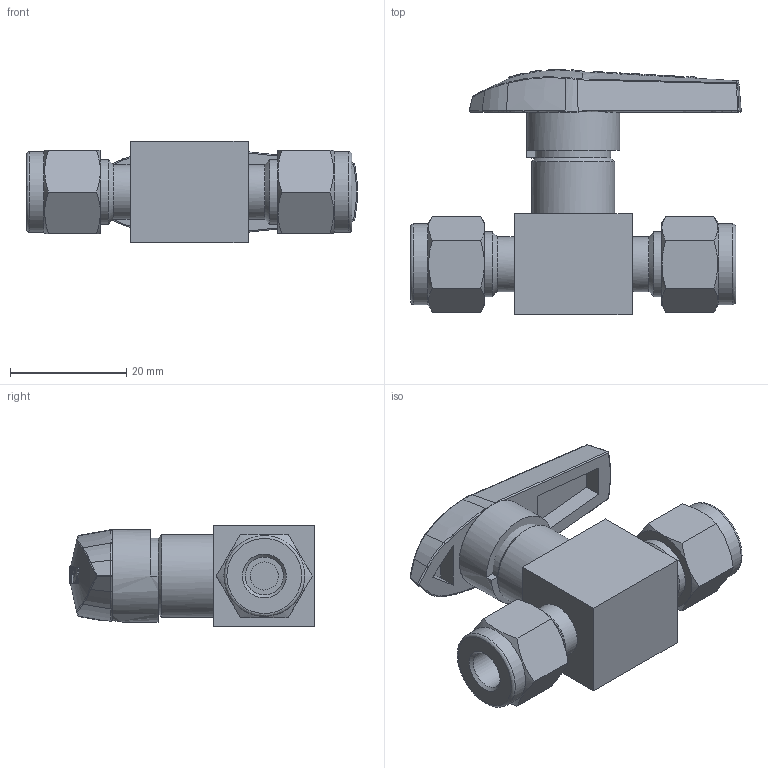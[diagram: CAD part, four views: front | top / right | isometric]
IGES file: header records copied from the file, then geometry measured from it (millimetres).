
Global section: file name: SBV120H1-S4-S316; native system: Autodesk Inventor 2016; preprocessor: unknown; author: 이승민,,11,0; organization: 20161215.101148; date: 20161216.190800; units: millimetre
Bounding box: 56.96 x 42.29 x 17.4 mm (x, y, z)
Volume: 14639.3 mm3; surface area: 7841.5 mm2
Topology: 2 solids, 2 shells, 291 faces, 762 edges, 500 vertices
Faces by surface type: bspline 291
